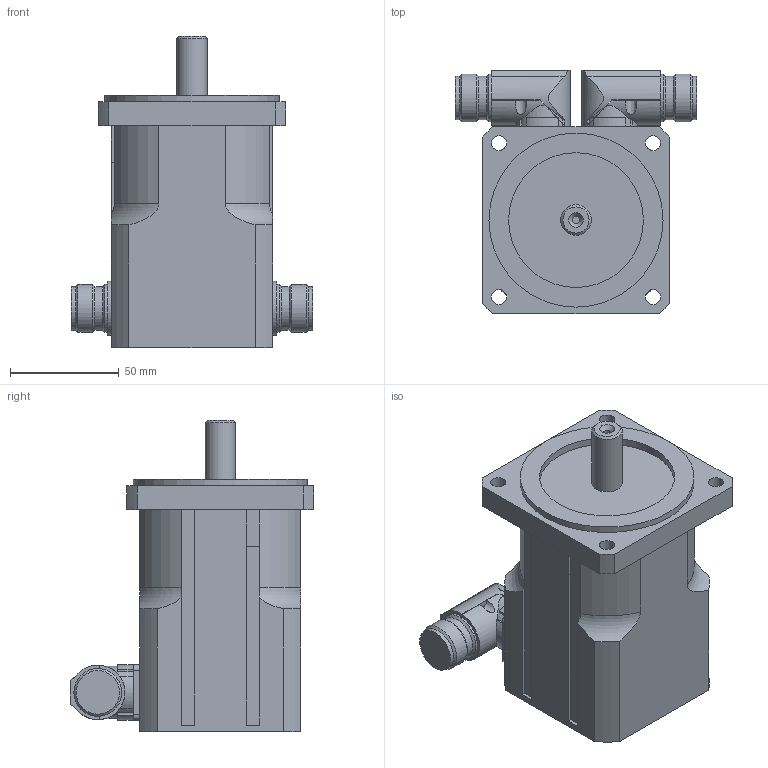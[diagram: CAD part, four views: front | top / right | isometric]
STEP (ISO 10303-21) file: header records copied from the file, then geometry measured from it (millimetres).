
FILE_DESCRIPTION(/* description */ ('Alibre Inc.'),/* implementation_level */ '2;1');
FILE_NAME(/* name */ 'export0',/* time_stamp */ '2011-07-28T10:49:03+02:00',/* author */ (''),/* organization */ (''),/* preprocessor_version */ 'ST-DEVELOPER v12',/* originating_system */ 'Alibre',/* authorisation */ '');
FILE_SCHEMA (('CONFIG_CONTROL_DESIGN'));
Length unit declared in the file: millimetre
Products named in the file (4): ID_1
Bounding box: 111 x 112 x 143 mm (x, y, z)
Volume: 653920.9 mm3; surface area: 77954.9 mm2
Topology: 4 solids, 4 shells, 204 faces, 548 edges, 362 vertices
Faces by surface type: cylinder 101, plane 71, bspline 21, cone 7, torus 4
Full cylindrical faces by diameter (mm): 2.7 x8, 14 x1, 20 x6, 22 x4, 62 x1, 80 x1
Entity records: 5278 total; most frequent: CARTESIAN_POINT 1601, ORIENTED_EDGE 664, DIRECTION 635, EDGE_CURVE 332, AXIS2_PLACEMENT_3D 264, VERTEX_POINT 234, EDGE_LOOP 184, FACE_BOUND 184
